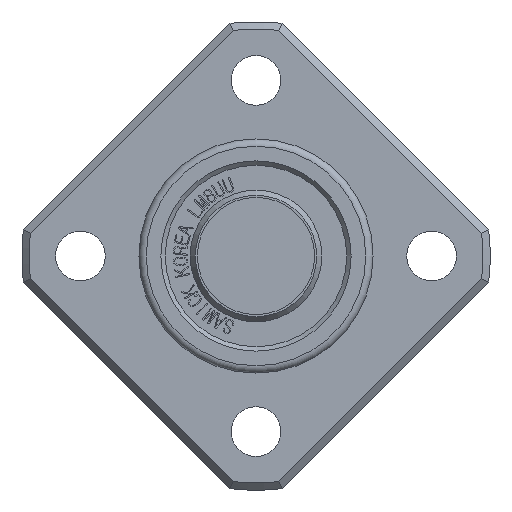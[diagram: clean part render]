
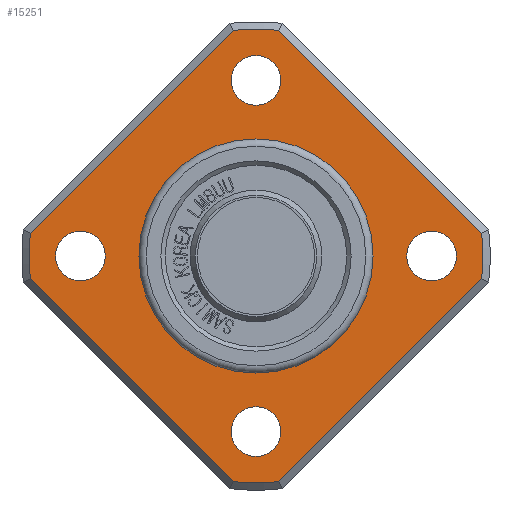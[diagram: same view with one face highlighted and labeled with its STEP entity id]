
A CAD part, front view. The second image highlights one B-rep face of the part: STEP entity #15251.
In plain terms, the highlighted planar face has unit normal (0, -1, 0).
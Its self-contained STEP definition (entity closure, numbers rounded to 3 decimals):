
#2171=FACE_BOUND('',#3211,.T.);
#2172=FACE_BOUND('',#3212,.T.);
#2173=FACE_BOUND('',#3213,.T.);
#2174=FACE_BOUND('',#3214,.T.);
#2175=FACE_BOUND('',#3215,.T.);
#2228=CIRCLE('',#16085,15.5);
#2243=CIRCLE('',#16107,15.5);
#2247=CIRCLE('',#16117,15.5);
#2248=CIRCLE('',#16119,15.5);
#2255=CIRCLE('',#16135,1.7);
#2259=CIRCLE('',#16142,1.7);
#2263=CIRCLE('',#16149,1.7);
#2267=CIRCLE('',#16156,1.7);
#2268=CIRCLE('',#16158,8.);
#2269=CIRCLE('',#16159,8.);
#2357=FACE_OUTER_BOUND('',#3210,.T.);
#3210=EDGE_LOOP('',(#10416,#10417,#10418,#10419,#10420,#10421,#10422,#10423));
#3211=EDGE_LOOP('',(#10424));
#3212=EDGE_LOOP('',(#10425));
#3213=EDGE_LOOP('',(#10426));
#3214=EDGE_LOOP('',(#10427));
#3215=EDGE_LOOP('',(#10428,#10429));
#4077=LINE('',#18260,#5185);
#4082=LINE('',#18312,#5190);
#4086=LINE('',#18328,#5194);
#4091=LINE('',#18363,#5199);
#5185=VECTOR('',#16443,10.);
#5190=VECTOR('',#16486,10.);
#5194=VECTOR('',#16494,10.);
#5199=VECTOR('',#16515,10.);
#6312=VERTEX_POINT('',#18255);
#6313=VERTEX_POINT('',#18259);
#6314=VERTEX_POINT('',#18265);
#6332=VERTEX_POINT('',#18311);
#6335=VERTEX_POINT('',#18323);
#6336=VERTEX_POINT('',#18327);
#6340=VERTEX_POINT('',#18341);
#6343=VERTEX_POINT('',#18362);
#6349=VERTEX_POINT('',#18402);
#6353=VERTEX_POINT('',#18415);
#6357=VERTEX_POINT('',#18428);
#6361=VERTEX_POINT('',#18441);
#6362=VERTEX_POINT('',#18445);
#6363=VERTEX_POINT('',#18446);
#7895=EDGE_CURVE('',#6312,#6313,#4077,.T.);
#7897=EDGE_CURVE('',#6314,#6313,#2228,.T.);
#7918=EDGE_CURVE('',#6314,#6332,#4082,.T.);
#7924=EDGE_CURVE('',#6335,#6336,#4086,.T.);
#7930=EDGE_CURVE('',#6340,#6336,#2243,.T.);
#7937=EDGE_CURVE('',#6340,#6343,#4091,.T.);
#7945=EDGE_CURVE('',#6312,#6343,#2247,.T.);
#7946=EDGE_CURVE('',#6335,#6332,#2248,.T.);
#7955=EDGE_CURVE('',#6349,#6349,#2255,.T.);
#7961=EDGE_CURVE('',#6353,#6353,#2259,.T.);
#7967=EDGE_CURVE('',#6357,#6357,#2263,.T.);
#7973=EDGE_CURVE('',#6361,#6361,#2267,.T.);
#7974=EDGE_CURVE('',#6362,#6363,#2268,.T.);
#7975=EDGE_CURVE('',#6363,#6362,#2269,.T.);
#10416=ORIENTED_EDGE('',*,*,#7895,.F.);
#10417=ORIENTED_EDGE('',*,*,#7945,.T.);
#10418=ORIENTED_EDGE('',*,*,#7937,.F.);
#10419=ORIENTED_EDGE('',*,*,#7930,.T.);
#10420=ORIENTED_EDGE('',*,*,#7924,.F.);
#10421=ORIENTED_EDGE('',*,*,#7946,.T.);
#10422=ORIENTED_EDGE('',*,*,#7918,.F.);
#10423=ORIENTED_EDGE('',*,*,#7897,.T.);
#10424=ORIENTED_EDGE('',*,*,#7955,.T.);
#10425=ORIENTED_EDGE('',*,*,#7961,.T.);
#10426=ORIENTED_EDGE('',*,*,#7967,.T.);
#10427=ORIENTED_EDGE('',*,*,#7973,.T.);
#10428=ORIENTED_EDGE('',*,*,#7974,.F.);
#10429=ORIENTED_EDGE('',*,*,#7975,.F.);
#14999=PLANE('',#16157);
#15251=ADVANCED_FACE('',(#2357,#2171,#2172,#2173,#2174,#2175),#14999,.T.);
#16085=AXIS2_PLACEMENT_3D('',#18266,#16446,#16447);
#16107=AXIS2_PLACEMENT_3D('',#18342,#16503,#16504);
#16117=AXIS2_PLACEMENT_3D('',#18380,#16528,#16529);
#16119=AXIS2_PLACEMENT_3D('',#18382,#16532,#16533);
#16135=AXIS2_PLACEMENT_3D('',#18404,#16566,#16567);
#16142=AXIS2_PLACEMENT_3D('',#18417,#16582,#16583);
#16149=AXIS2_PLACEMENT_3D('',#18430,#16598,#16599);
#16156=AXIS2_PLACEMENT_3D('',#18443,#16614,#16615);
#16157=AXIS2_PLACEMENT_3D('',#18444,#16616,#16617);
#16158=AXIS2_PLACEMENT_3D('',#18447,#16618,#16619);
#16159=AXIS2_PLACEMENT_3D('',#18448,#16620,#16621);
#16443=DIRECTION('',(-0.707,0.,-0.707));
#16446=DIRECTION('center_axis',(0.,-1.,0.));
#16447=DIRECTION('ref_axis',(1.,0.,0.));
#16486=DIRECTION('',(-0.707,0.,0.707));
#16494=DIRECTION('',(0.707,0.,0.707));
#16503=DIRECTION('center_axis',(0.,-1.,0.));
#16504=DIRECTION('ref_axis',(1.,0.,0.));
#16515=DIRECTION('',(0.707,0.,-0.707));
#16528=DIRECTION('center_axis',(0.,-1.,0.));
#16529=DIRECTION('ref_axis',(1.,0.,0.));
#16532=DIRECTION('center_axis',(0.,-1.,0.));
#16533=DIRECTION('ref_axis',(1.,0.,0.));
#16566=DIRECTION('center_axis',(0.,1.,0.));
#16567=DIRECTION('ref_axis',(0.,0.,1.));
#16582=DIRECTION('center_axis',(0.,1.,0.));
#16583=DIRECTION('ref_axis',(-1.,0.,0.));
#16598=DIRECTION('center_axis',(0.,1.,0.));
#16599=DIRECTION('ref_axis',(0.,0.,-1.));
#16614=DIRECTION('center_axis',(0.,1.,0.));
#16615=DIRECTION('ref_axis',(1.,0.,0.));
#16616=DIRECTION('center_axis',(0.,-1.,0.));
#16617=DIRECTION('ref_axis',(0.,0.,-1.));
#16618=DIRECTION('center_axis',(0.,-1.,0.));
#16619=DIRECTION('ref_axis',(1.,0.,0.));
#16620=DIRECTION('center_axis',(0.,-1.,0.));
#16621=DIRECTION('ref_axis',(1.,0.,0.));
#18255=CARTESIAN_POINT('',(15.422,7.5,-1.548));
#18259=CARTESIAN_POINT('',(1.548,7.5,-15.422));
#18260=CARTESIAN_POINT('',(14.016,7.5,-2.954));
#18265=CARTESIAN_POINT('',(-1.548,7.5,-15.422));
#18266=CARTESIAN_POINT('Origin',(0.,7.5,0.));
#18311=CARTESIAN_POINT('',(-15.422,7.5,-1.548));
#18312=CARTESIAN_POINT('',(-2.954,7.5,-14.016));
#18323=CARTESIAN_POINT('',(-15.422,7.5,1.548));
#18327=CARTESIAN_POINT('',(-1.548,7.5,15.422));
#18328=CARTESIAN_POINT('',(-10.016,7.5,6.954));
#18341=CARTESIAN_POINT('',(1.548,7.5,15.422));
#18342=CARTESIAN_POINT('Origin',(0.,7.5,0.));
#18362=CARTESIAN_POINT('',(15.422,7.5,1.548));
#18363=CARTESIAN_POINT('',(6.954,7.5,10.016));
#18380=CARTESIAN_POINT('Origin',(0.,7.5,0.));
#18382=CARTESIAN_POINT('Origin',(0.,7.5,0.));
#18402=CARTESIAN_POINT('',(0.,7.5,10.3));
#18404=CARTESIAN_POINT('Origin',(0.,7.5,12.));
#18415=CARTESIAN_POINT('',(-10.3,7.5,0.));
#18417=CARTESIAN_POINT('Origin',(-12.,7.5,0.));
#18428=CARTESIAN_POINT('',(0.,7.5,-10.3));
#18430=CARTESIAN_POINT('Origin',(0.,7.5,-12.));
#18441=CARTESIAN_POINT('',(10.3,7.5,0.));
#18443=CARTESIAN_POINT('Origin',(12.,7.5,0.));
#18444=CARTESIAN_POINT('Origin',(8.,7.5,0.));
#18445=CARTESIAN_POINT('',(8.,7.5,0.));
#18446=CARTESIAN_POINT('',(-8.,7.5,0.));
#18447=CARTESIAN_POINT('Origin',(0.,7.5,0.));
#18448=CARTESIAN_POINT('Origin',(0.,7.5,0.));
